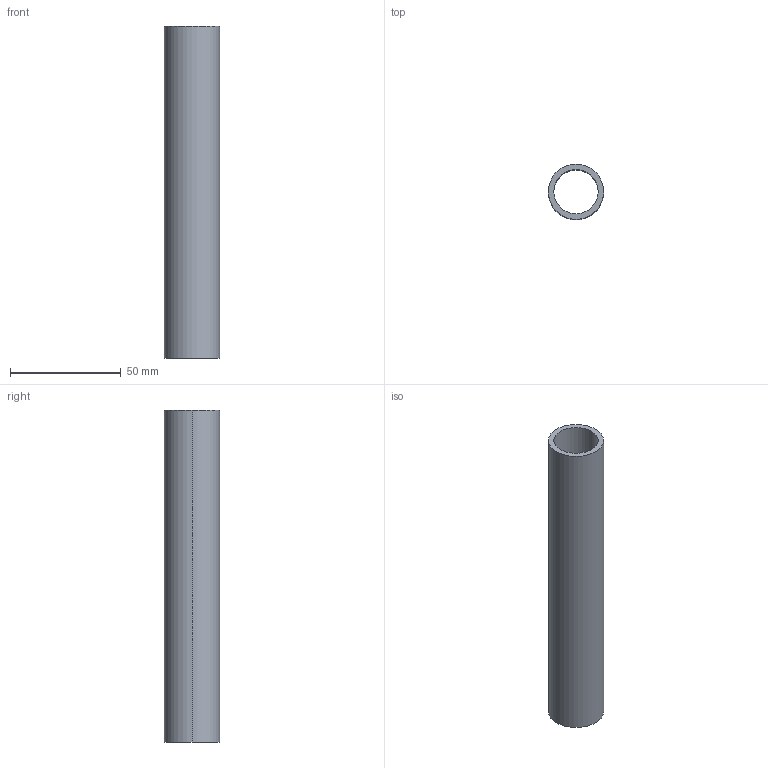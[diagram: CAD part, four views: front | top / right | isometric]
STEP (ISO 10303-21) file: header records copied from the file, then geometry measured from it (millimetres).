
FILE_DESCRIPTION (( 'STEP AP203' ), '1' );
FILE_NAME ('084.802.015.STEP', '2013-02-01T09:13:36', ( 'Alusic' ), ( 'Alusic' ), 'SwSTEP 2.0', 'SolidWorks 2011', '' );
FILE_SCHEMA (( 'CONFIG_CONTROL_DESIGN' ));
Length unit declared in the file: millimetre
Products named in the file (1): 084.802.015
Bounding box: 25 x 25 x 150 mm (x, y, z)
Volume: 26507.2 mm3; surface area: 21559.2 mm2
Topology: 1 solids, 1 shells, 6 faces, 12 edges, 8 vertices
Faces by surface type: cylinder 4, plane 2
Entity records: 245 total; most frequent: DIRECTION 34, CARTESIAN_POINT 27, ORIENTED_EDGE 24, AXIS2_PLACEMENT_3D 15, EDGE_CURVE 12, CIRCLE 8, EDGE_LOOP 8, VERTEX_POINT 8
